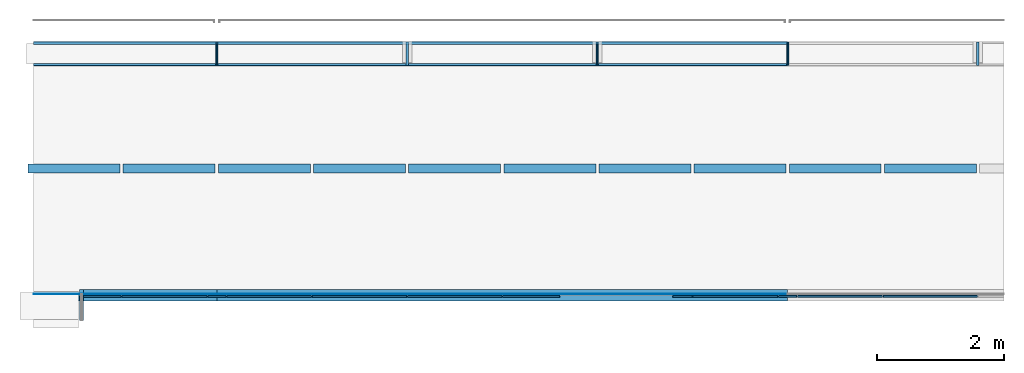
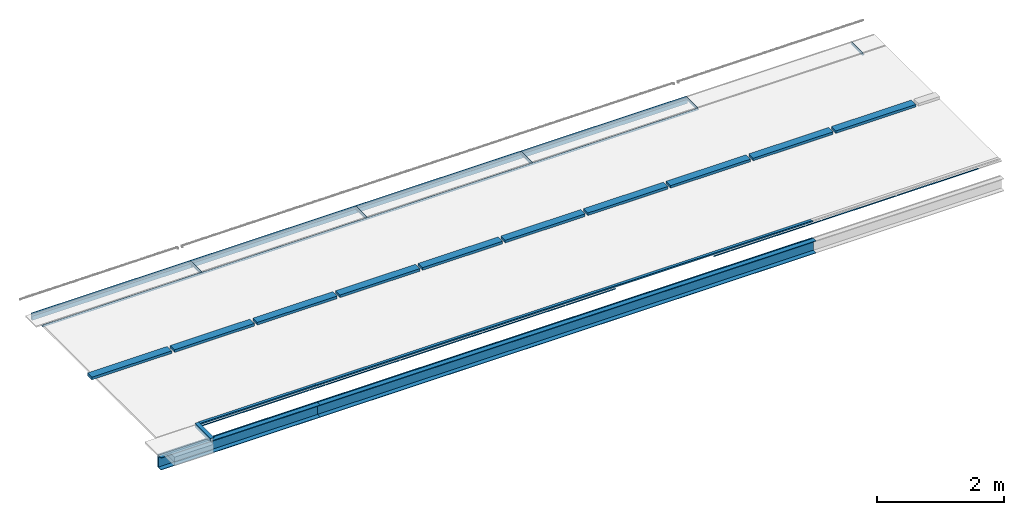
# One storey, part 1 of 3: 30 beams, 10 members, 1 element without a shape of its own.
"""IFC2X3 building model written with IfcOpenShell, lengths in millimetres."""

from ifc_helpers import new_model, entity, si_unit, converted_unit, derived_unit, direction, frame, frame_2d, origin, origin_with_axes, origin_2d_with_axis, place, context, subcontext, project, spatial, polyline, rectangle, outline, extrude, boolean, faceted_brep, source, transform, mapped, material, type_object, element, aggregate, save


model = new_model("IFC2X3")

# Units and contexts
model_context = context("Model", 3, precision=0.01, world=frame((0.0, 4.29681676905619e-09, 0.0)), true_north=direction((4.01073788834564e-13, 1.0)))
plan_context = context("Plan", 3, precision=0.01, world=frame((0.0, 4.29681676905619e-09, 0.0)), true_north=direction((4.01073788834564e-13, 1.0)))
body_context = subcontext(model_context, "Body", "Model", "MODEL_VIEW")
ifc_project = project(units=[converted_unit("PLANEANGLEUNIT", "DEGREE", entity("IfcPositiveLengthMeasure", 0.0174532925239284), si_unit("PLANEANGLEUNIT", "RADIAN"), dimensions=[0, 0, 0, 0, 0, 0, 0]), si_unit("AREAUNIT", "SQUARE_METRE"), si_unit("LENGTHUNIT", "METRE", prefix="MILLI"), si_unit("MASSUNIT", "GRAM", prefix="KILO"), si_unit("POWERUNIT", "WATT"), si_unit("PRESSUREUNIT", "PASCAL"), si_unit("FORCEUNIT", "NEWTON", prefix="KILO"), si_unit("ELECTRICVOLTAGEUNIT", "VOLT"), si_unit("ELECTRICCURRENTUNIT", "AMPERE"), si_unit("THERMODYNAMICTEMPERATUREUNIT", "DEGREE_CELSIUS"), si_unit("TIMEUNIT", "SECOND"), si_unit("VOLUMEUNIT", "CUBIC_METRE"), derived_unit("LINEARVELOCITYUNIT", [(si_unit("LENGTHUNIT", "METRE"), 1), (si_unit("TIMEUNIT", "SECOND"), -1)]), derived_unit("VOLUMETRICFLOWRATEUNIT", [(si_unit("VOLUMEUNIT", "CUBIC_METRE"), 1), (si_unit("TIMEUNIT", "SECOND"), -1)]), derived_unit("THERMALTRANSMITTANCEUNIT", [(si_unit("POWERUNIT", "WATT"), 1), (si_unit("THERMODYNAMICTEMPERATUREUNIT", "KELVIN"), -1), (si_unit("AREAUNIT", "SQUARE_METRE"), -1)]), derived_unit("SOUNDPRESSUREUNIT", [(si_unit("PRESSUREUNIT", "PASCAL"), 1)])], contexts=[model_context, plan_context])

# Site, building, storey
site_placement = place(None, origin_with_axes())
site = spatial("IfcSite", under=ifc_project, at=site_placement, Name="ENGM", CompositionType="ELEMENT")
building_placement = place(site_placement, origin_with_axes())
building = spatial("IfcBuilding", under=site, at=building_placement, Name="TH", CompositionType="ELEMENT")
storey_placement = place(building_placement, frame((0.0, 0.0, 213700.0), z_axis=(0.0, 0.0, 1.0), x_axis=(1.0, 0.0, 0.0)))
storey = spatial("IfcBuildingStorey", under=building, at=storey_placement, Name="Nivå G - 2,0 m", CompositionType="ELEMENT", Elevation=213700.0)

# Curtain wall, members
curtain_wall_type = type_object("IfcCurtainWallType", Name="Curtain Wall:A242 - IGV", PredefinedType="NOTDEFINED")
curtain_wall_placement = place(storey_placement, frame((0.0, 0.0, -213700.0), z_axis=(0.0, 0.0, 1.0), x_axis=(1.0, 0.0, 0.0)))
curtain_wall = element("IfcCurtainWall", 1, at=curtain_wall_placement, inside=storey, type_object=curtain_wall_type, Name="Curtain Wall:A242 - IGV", ObjectType="Curtain Wall:A242 - IGV")
ifc_material_1 = material(Name="T2_Metal_Aluminium")
member_type = type_object("IfcMemberType", Name="Rectangular Mullion:A233 - Sprosse 50 mm - 100(post)+40(dekkprofil)", PredefinedType="MULLION", material=ifc_material_1)
shared_shape = source(origin(), body_context, "Body", "SweptSolid", [
    extrude(rectangle(XDim=139.999999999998, YDim=50.0, at=origin_2d_with_axis()), frame((-25.0, 30.0, -1450.0), z_axis=(0.0, 0.0, 1.0), x_axis=(0.0, -1.0, 0.0)), (0.0, 0.0, 1.0), 1450.00000000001),
])
member_1_placement = place(curtain_wall_placement, frame((905475.045795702, 482793.174999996, 213700.0), z_axis=(1.0, 0.0, 0.0), x_axis=(0.0, 0.0, -1.0)))
member_1 = element("IfcMember", 2, at=member_1_placement, type_object=member_type, material=ifc_material_1, Name="Rectangular Mullion:A233 - Sprosse 50 mm - 100(post)+40(dekkprofil)", ObjectType="Rectangular Mullion:A233 - Sprosse 50 mm - 100(post)+40(dekkprofil)", context=body_context, shape_type="MappedRepresentation", body=[
    mapped(shared_shape, transform((0.0, 0.0, 0.0), scale=1.0)),
])
member_2_placement = place(curtain_wall_placement, frame((908475.045795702, 482793.174999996, 213700.0), z_axis=(1.0, 0.0, 0.0), x_axis=(0.0, 0.0, -1.0)))
member_2 = element("IfcMember", 3, at=member_2_placement, type_object=member_type, material=ifc_material_1, Name="Rectangular Mullion:A233 - Sprosse 50 mm - 100(post)+40(dekkprofil)", ObjectType="Rectangular Mullion:A233 - Sprosse 50 mm - 100(post)+40(dekkprofil)", context=body_context, shape_type="MappedRepresentation", body=[
    mapped(shared_shape, transform((0.0, 0.0, 0.0), scale=1.0)),
])
member_3_placement = place(curtain_wall_placement, frame((902475.045795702, 482793.174999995, 213700.0), z_axis=(1.0, 0.0, 0.0), x_axis=(0.0, 0.0, -1.0)))
member_3 = element("IfcMember", 4, at=member_3_placement, type_object=member_type, material=ifc_material_1, Name="Rectangular Mullion:A233 - Sprosse 50 mm - 100(post)+40(dekkprofil)", ObjectType="Rectangular Mullion:A233 - Sprosse 50 mm - 100(post)+40(dekkprofil)", context=body_context, shape_type="MappedRepresentation", body=[
    mapped(shared_shape, transform((0.0, 0.0, 0.0), scale=1.0)),
])
member_4_placement = place(curtain_wall_placement, frame((899475.045795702, 482793.174999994, 213700.0), z_axis=(1.0, 0.0, 0.0), x_axis=(0.0, 0.0, -1.0)))
member_4 = element("IfcMember", 5, at=member_4_placement, type_object=member_type, material=ifc_material_1, Name="Rectangular Mullion:A233 - Sprosse 50 mm - 100(post)+40(dekkprofil)", ObjectType="Rectangular Mullion:A233 - Sprosse 50 mm - 100(post)+40(dekkprofil)", context=body_context, shape_type="MappedRepresentation", body=[
    mapped(shared_shape, transform((0.0, 0.0, 0.0), scale=1.0)),
])
member_5_placement = place(curtain_wall_placement, frame((896475.045795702, 482793.174999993, 213700.0), z_axis=(1.0, 0.0, 0.0), x_axis=(0.0, 0.0, -1.0)))
member_5 = element("IfcMember", 6, at=member_5_placement, type_object=member_type, material=ifc_material_1, Name="Rectangular Mullion:A233 - Sprosse 50 mm - 100(post)+40(dekkprofil)", ObjectType="Rectangular Mullion:A233 - Sprosse 50 mm - 100(post)+40(dekkprofil)", context=body_context, shape_type="MappedRepresentation", body=[
    mapped(shared_shape, transform((0.0, 0.0, 0.0), scale=1.0)),
])
member_6_placement = place(curtain_wall_placement, frame((897975.045795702, 482793.174999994, 213700.0), z_axis=(1.0, 0.0, 0.0), x_axis=(0.0, 0.0, -1.0)))
member_6 = element("IfcMember", 7, at=member_6_placement, type_object=member_type, material=ifc_material_1, Name="Rectangular Mullion:A233 - Sprosse 50 mm - 100(post)+40(dekkprofil)", ObjectType="Rectangular Mullion:A233 - Sprosse 50 mm - 100(post)+40(dekkprofil)", context=body_context, shape_type="MappedRepresentation", body=[
    mapped(shared_shape, transform((0.0, 0.0, 0.0), scale=1.0)),
])
member_7_placement = place(curtain_wall_placement, frame((900975.045795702, 482793.174999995, 213700.0), z_axis=(1.0, 0.0, 0.0), x_axis=(0.0, 0.0, -1.0)))
member_7 = element("IfcMember", 8, at=member_7_placement, type_object=member_type, material=ifc_material_1, Name="Rectangular Mullion:A233 - Sprosse 50 mm - 100(post)+40(dekkprofil)", ObjectType="Rectangular Mullion:A233 - Sprosse 50 mm - 100(post)+40(dekkprofil)", context=body_context, shape_type="MappedRepresentation", body=[
    mapped(shared_shape, transform((0.0, 0.0, 0.0), scale=1.0)),
])
member_8_placement = place(curtain_wall_placement, frame((903975.045795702, 482793.174999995, 213700.0), z_axis=(1.0, 0.0, 0.0), x_axis=(0.0, 0.0, -1.0)))
member_8 = element("IfcMember", 9, at=member_8_placement, type_object=member_type, material=ifc_material_1, Name="Rectangular Mullion:A233 - Sprosse 50 mm - 100(post)+40(dekkprofil)", ObjectType="Rectangular Mullion:A233 - Sprosse 50 mm - 100(post)+40(dekkprofil)", context=body_context, shape_type="MappedRepresentation", body=[
    mapped(shared_shape, transform((0.0, 0.0, 0.0), scale=1.0)),
])
member_9_placement = place(curtain_wall_placement, frame((906975.045795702, 482793.174999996, 213700.0), z_axis=(1.0, 0.0, 0.0), x_axis=(0.0, 0.0, -1.0)))
member_9 = element("IfcMember", 10, at=member_9_placement, type_object=member_type, material=ifc_material_1, Name="Rectangular Mullion:A233 - Sprosse 50 mm - 100(post)+40(dekkprofil)", ObjectType="Rectangular Mullion:A233 - Sprosse 50 mm - 100(post)+40(dekkprofil)", context=body_context, shape_type="MappedRepresentation", body=[
    mapped(shared_shape, transform((0.0, 0.0, 0.0), scale=1.0)),
])
member_10_placement = place(curtain_wall_placement, frame((909975.045795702, 482793.174999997, 213700.0), z_axis=(1.0, 0.0, 0.0), x_axis=(0.0, 0.0, -1.0)))
member_10 = element("IfcMember", 11, at=member_10_placement, type_object=member_type, material=ifc_material_1, Name="Rectangular Mullion:A233 - Sprosse 50 mm - 100(post)+40(dekkprofil)", ObjectType="Rectangular Mullion:A233 - Sprosse 50 mm - 100(post)+40(dekkprofil)", context=body_context, shape_type="MappedRepresentation", body=[
    mapped(shared_shape, transform((0.0, 0.0, 0.0), scale=1.0)),
])
aggregate(curtain_wall, [member_1, member_2, member_3, member_4, member_5, member_6, member_7, member_8, member_9, member_10])

# Beams
ifc_material_2 = material(Name="_NSW Stål")
beam_type_1 = type_object("IfcBeamType", Name="B223 - Bjelke - Flatstål:B223 - Bjelke - Flatstål - w240 h 8", PredefinedType="BEAM")
beam_1_placement = place(storey_placement, frame((898000.000000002, 480844.004374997, -300.0), z_axis=(0.0, 0.0, 1.0), x_axis=(1.0, 0.0, 0.0)))
element("IfcBeam", 12, at=beam_1_placement, inside=storey, type_object=beam_type_1, material=ifc_material_2, Name="B223 - Bjelke - Flatstål:B223 - Bjelke - Flatstål - w240 h 8", ObjectType="B223 - Bjelke - Flatstål:B223 - Bjelke - Flatstål - w240 h 8", context=body_context, shape_type="SweptSolid", body=[
    extrude(rectangle(XDim=240.000000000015, YDim=7.99999999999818, at=origin_2d_with_axis()), frame((0.0, 0.0, -120.0), z_axis=(1.0, 0.0, 0.0), x_axis=(0.0, 0.0, -1.0)), (0.0, 0.0, 1.0), 9000.00000000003),
])
beam_2_placement = place(storey_placement, frame((889000.000000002, 480844.004374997, -300.0), z_axis=(0.0, 0.0, 1.0), x_axis=(1.0, 0.0, 0.0)))
element("IfcBeam", 13, at=beam_2_placement, inside=storey, type_object=beam_type_1, Name="B223 - Bjelke - Flatstål:B223 - Bjelke - Flatstål - w240 h 8", ObjectType="B223 - Bjelke - Flatstål:B223 - Bjelke - Flatstål - w240 h 8", context=body_context, shape_type="Brep", body=[
    faceted_brep([(6111.90616856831, -3.99999999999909, 7.37543359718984e-12), (6111.90616856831, 3.99999999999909, 7.37543359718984e-12), (9000.00000000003, 3.99999999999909, 7.37543359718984e-12), (9000.00000000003, -3.99999999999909, 7.37543359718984e-12), (6111.90616856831, -3.99999999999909, -240.000000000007), (9000.00000000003, -3.99999999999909, -240.000000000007), (6111.90616856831, 3.99999999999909, -240.000000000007), (9000.00000000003, 3.99999999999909, -240.000000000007)], [[[0, 1, 2, 3]], [[4, 0, 3, 5]], [[6, 4, 5, 7]], [[1, 6, 7, 2]], [[3, 2, 7, 5]], [[4, 6, 1, 0]]], orient=[[False], [False], [False], [False], [False], [False]]),
])
beam_type_2 = type_object("IfcBeamType", Name="B223 - Bjelke - UNP:B223 - UNP 240", PredefinedType="BEAM")
beam_3_placement = place(storey_placement, frame((898000.000000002, 480777.504374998, -300.0), z_axis=(0.0, 0.0, 1.0), x_axis=(1.0, 0.0, 0.0)))
element("IfcBeam", 14, at=beam_3_placement, inside=storey, type_object=beam_type_2, material=ifc_material_2, Name="B223 - Bjelke - UNP:B223 - UNP 240", ObjectType="B223 - Bjelke - UNP:B223 - UNP 240", context=body_context, shape_type="SweptSolid", body=[
    extrude(outline(polyline([(109.673873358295, -40.1250000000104), (120.0, -40.1250000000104), (120.0, 44.8750000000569), (-120.0, 44.8749999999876), (-120.0, -40.1250000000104), (-109.673873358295, -40.1250000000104), (-104.923815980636, 35.3750000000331), (104.923815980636, 35.3750000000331), (109.673873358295, -40.1250000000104)])), frame((0.0, -2.37500000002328, -120.0), z_axis=(1.0, 0.0, 0.0), x_axis=(0.0, 0.0, -1.0)), (0.0, 0.0, 1.0), 9000.00000000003),
])
beam_4_placement = place(storey_placement, frame((889000.000000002, 480777.504374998, -300.0), z_axis=(0.0, 0.0, 1.0), x_axis=(1.0, 0.0, 0.0)))
element("IfcBeam", 15, at=beam_4_placement, inside=storey, type_object=beam_type_2, Name="B223 - Bjelke - UNP:B223 - UNP 240", ObjectType="B223 - Bjelke - UNP:B223 - UNP 240", context=body_context, shape_type="Brep", body=[
    faceted_brep([(6111.90616856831, -42.4999999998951, -229.673873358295), (6111.90616856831, 33.0000000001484, -224.923815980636), (9000.00000000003, 33.0000000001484, -224.923815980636), (9000.00000000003, -42.4999999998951, -229.673873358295), (6111.90616856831, -42.4999999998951, -240.0), (9000.00000000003, -42.4999999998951, -240.0), (6111.90616856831, 42.5000000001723, -240.0), (9000.00000000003, 42.5000000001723, -240.0), (6111.90616856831, 42.500000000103, 0.0), (9000.00000000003, 42.500000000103, 0.0), (6111.90616856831, -42.4999999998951, 0.0), (9000.00000000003, -42.4999999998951, 0.0), (6111.90616856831, -42.4999999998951, -10.3261266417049), (9000.00000000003, -42.4999999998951, -10.3261266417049), (6111.90616856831, 33.0000000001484, -15.0761840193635), (9000.00000000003, 33.0000000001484, -15.0761840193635)], [[[0, 1, 2, 3]], [[4, 0, 3, 5]], [[6, 4, 5, 7]], [[8, 6, 7, 9]], [[10, 8, 9, 11]], [[12, 10, 11, 13]], [[14, 12, 13, 15]], [[1, 14, 15, 2]], [[3, 2, 15, 13, 11, 9, 7, 5]], [[4, 6, 8, 10, 12, 14, 1, 0]]], orient=[[False], [False], [False], [False], [False], [False], [False], [False], [False], [False]]),
])
beam_type_3 = type_object("IfcBeamType", Name="B223 - Bjelke - L:B223 -80x25x4", PredefinedType="BEAM")
beam_5_placement = place(storey_placement, frame((898000.000000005, 480835.999999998, 0.0), z_axis=(0.0, 0.0, 1.0), x_axis=(1.0, 0.0, 0.0)))
element("IfcBeam", 16, at=beam_5_placement, inside=storey, type_object=beam_type_3, material=ifc_material_2, Name="B223 - Bjelke - L:B223 -80x25x4", ObjectType="B223 - Bjelke - L:B223 -80x25x4", context=body_context, shape_type="SweptSolid", body=[
    extrude(outline(polyline([(-15.3333333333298, -28.0), (9.6666666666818, -28.0), (9.6666666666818, 52.0), (5.6666666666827, 52.0), (5.6666666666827, -24.0), (-15.3333333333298, -24.0), (-15.3333333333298, -28.0)])), frame((0.0, 28.0, 9.6666666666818), z_axis=(1.0, 0.0, 0.0), x_axis=(0.0, 0.0, -1.0)), (0.0, 0.0, 1.0), 9001.022094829),
])
beam_type_4 = type_object("IfcBeamType", Name="B223 - Bjelke - L:B223 - 25x25x5", PredefinedType="BEAM")
beam_6_placement = place(storey_placement, frame((899507.500000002, 480820.004374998, 0.0), z_axis=(0.0, 0.0, 1.0), x_axis=(1.0, 0.0, 0.0)))
element("IfcBeam", 17, at=beam_6_placement, inside=storey, type_object=beam_type_4, material=ifc_material_2, Name="B223 - Bjelke - L:B223 - 25x25x5", ObjectType="B223 - Bjelke - L:B223 - 25x25x5", context=body_context, shape_type="SweptSolid", body=[
    extrude(outline(polyline([(-10.0, -15.0), (-5.0, -15.0), (-5.0, 5.0), (15.0, 5.0), (15.0, 10.0), (-10.0, 10.0), (-10.0, -15.0)])), frame((0.0, -10.0, -10.0), z_axis=(1.0, 0.0, 0.0), x_axis=(0.0, 0.0, -1.0)), (0.0, 0.0, 1.0), 1485.00000000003),
])
beam_7_placement = place(storey_placement, frame((898157.499999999, 480820.004375, 0.0), z_axis=(0.0, 0.0, 1.0), x_axis=(1.0, 0.0, 0.0)))
element("IfcBeam", 18, at=beam_7_placement, inside=storey, type_object=beam_type_4, material=ifc_material_2, Name="B223 - Bjelke - L:B223 - 25x25x5", ObjectType="B223 - Bjelke - L:B223 - 25x25x5", context=body_context, shape_type="SweptSolid", body=[
    extrude(outline(polyline([(-10.0, -15.0), (-5.0, -15.0), (-5.0, 5.0), (15.0, 5.0), (15.0, 10.0), (-10.0, 10.0), (-10.0, -15.0)])), frame((0.0, -10.0, -10.0), z_axis=(1.0, 0.0, 0.0), x_axis=(0.0, 0.0, -1.0)), (0.0, 0.0, 1.0), 1334.99999999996),
])
beam_8_placement = place(storey_placement, frame((901007.500000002, 480820.004374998, 0.0), z_axis=(0.0, 0.0, 1.0), x_axis=(1.0, 0.0, 0.0)))
element("IfcBeam", 19, at=beam_8_placement, inside=storey, type_object=beam_type_4, material=ifc_material_2, Name="B223 - Bjelke - L:B223 - 25x25x5", ObjectType="B223 - Bjelke - L:B223 - 25x25x5", context=body_context, shape_type="SweptSolid", body=[
    extrude(outline(polyline([(-10.0, -15.0), (-5.0, -15.0), (-5.0, 5.0), (15.0, 5.0), (15.0, 10.0), (-10.0, 10.0), (-10.0, -15.0)])), frame((0.0, -10.0, -10.0), z_axis=(1.0, 0.0, 0.0), x_axis=(0.0, 0.0, -1.0)), (0.0, 0.0, 1.0), 1485.00000000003),
])
beam_9_placement = place(storey_placement, frame((902507.500000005, 480820.004374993, 0.0), z_axis=(0.0, 0.0, 1.0), x_axis=(1.0, 0.0, 0.0)))
element("IfcBeam", 20, at=beam_9_placement, inside=storey, type_object=beam_type_4, material=ifc_material_2, Name="B223 - Bjelke - L:B223 - 25x25x5", ObjectType="B223 - Bjelke - L:B223 - 25x25x5", context=body_context, shape_type="SweptSolid", body=[
    extrude(outline(polyline([(-10.0, -15.0), (-5.0, -15.0), (-5.0, 5.0), (15.0, 5.0), (15.0, 10.0), (-10.0, 10.0), (-10.0, -15.0)])), frame((0.0, -10.0, -10.0), z_axis=(1.0, 0.0, 0.0), x_axis=(0.0, 0.0, -1.0)), (0.0, 0.0, 1.0), 897.094607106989),
])
beam_10_placement = place(storey_placement, frame((905189.594607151, 480820.004374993, 0.0), z_axis=(0.0, 0.0, 1.0), x_axis=(1.0, 0.0, 0.0)))
element("IfcBeam", 21, at=beam_10_placement, inside=storey, type_object=beam_type_4, material=ifc_material_2, Name="B223 - Bjelke - L:B223 - 25x25x5", ObjectType="B223 - Bjelke - L:B223 - 25x25x5", context=body_context, shape_type="SweptSolid", body=[
    extrude(outline(polyline([(-10.0, -15.0), (-5.0, -15.0), (-5.0, 5.0), (15.0, 5.0), (15.0, 10.0), (-10.0, 10.0), (-10.0, -15.0)])), frame((0.0, -10.0, -10.0), z_axis=(1.0, 0.0, 0.0), x_axis=(0.0, 0.0, -1.0)), (0.0, 0.0, 1.0), 302.90539285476),
])
beam_11_placement = place(storey_placement, frame((905507.499999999, 480820.004375, 0.0), z_axis=(0.0, 0.0, 1.0), x_axis=(1.0, 0.0, 0.0)))
element("IfcBeam", 22, at=beam_11_placement, inside=storey, type_object=beam_type_4, material=ifc_material_2, Name="B223 - Bjelke - L:B223 - 25x25x5", ObjectType="B223 - Bjelke - L:B223 - 25x25x5", context=body_context, shape_type="SweptSolid", body=[
    extrude(outline(polyline([(-10.0, -15.0), (-5.0, -15.0), (-5.0, 5.0), (15.0, 5.0), (15.0, 10.0), (-10.0, 10.0), (-10.0, -15.0)])), frame((0.0, -10.0, -10.0), z_axis=(1.0, 0.0, 0.0), x_axis=(0.0, 0.0, -1.0)), (0.0, 0.0, 1.0), 1334.99999999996),
])
beam_12_placement = place(storey_placement, frame((906857.499999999, 480820.004375, 0.0), z_axis=(0.0, 0.0, 1.0), x_axis=(1.0, 0.0, 0.0)))
element("IfcBeam", 23, at=beam_12_placement, inside=storey, type_object=beam_type_4, material=ifc_material_2, Name="B223 - Bjelke - L:B223 - 25x25x5", ObjectType="B223 - Bjelke - L:B223 - 25x25x5", context=body_context, shape_type="SweptSolid", body=[
    extrude(outline(polyline([(-10.0, -15.0), (-5.0, -15.0), (-5.0, 5.0), (15.0, 5.0), (15.0, 10.0), (-10.0, 10.0), (-10.0, -15.0)])), frame((0.0, -10.0, -10.0), z_axis=(1.0, 0.0, 0.0), x_axis=(0.0, 0.0, -1.0)), (0.0, 0.0, 1.0), 285.000000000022),
])
beam_13_placement = place(storey_placement, frame((908507.500000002, 480820.004374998, 0.0), z_axis=(0.0, 0.0, 1.0), x_axis=(1.0, 0.0, 0.0)))
element("IfcBeam", 24, at=beam_13_placement, inside=storey, type_object=beam_type_4, material=ifc_material_2, Name="B223 - Bjelke - L:B223 - 25x25x5", ObjectType="B223 - Bjelke - L:B223 - 25x25x5", context=body_context, shape_type="SweptSolid", body=[
    extrude(outline(polyline([(-10.0, -15.0), (-5.0, -15.0), (-5.0, 5.0), (15.0, 5.0), (15.0, 10.0), (-10.0, 10.0), (-10.0, -15.0)])), frame((0.0, -10.0, -10.0), z_axis=(1.0, 0.0, 0.0), x_axis=(0.0, 0.0, -1.0)), (0.0, 0.0, 1.0), 1485.00000000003),
])
beam_14_placement = place(storey_placement, frame((907157.499999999, 480820.004375, 0.0), z_axis=(0.0, 0.0, 1.0), x_axis=(1.0, 0.0, 0.0)))
element("IfcBeam", 25, at=beam_14_placement, inside=storey, type_object=beam_type_4, material=ifc_material_2, Name="B223 - Bjelke - L:B223 - 25x25x5", ObjectType="B223 - Bjelke - L:B223 - 25x25x5", context=body_context, shape_type="SweptSolid", body=[
    extrude(outline(polyline([(-10.0, -15.0), (-5.0, -15.0), (-5.0, 5.0), (15.0, 5.0), (15.0, 10.0), (-10.0, 10.0), (-10.0, -15.0)])), frame((0.0, -10.0, -10.0), z_axis=(1.0, 0.0, 0.0), x_axis=(0.0, 0.0, -1.0)), (0.0, 0.0, 1.0), 1334.99999999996),
])
beam_type_5 = type_object("IfcBeamType", Name="B223 - Bjelke - L:B223 - 40x40x4", PredefinedType="BEAM")
beam_15_placement = place(storey_placement, frame((898000.000000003, 484799.999999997, -40.0), z_axis=(0.0, 0.0, 1.0), x_axis=(1.0, 0.0, 0.0)))
element("IfcBeam", 26, at=beam_15_placement, inside=storey, type_object=beam_type_5, material=ifc_material_2, Name="B223 - Bjelke - L:B223 - 40x40x4", ObjectType="B223 - Bjelke - L:B223 - 40x40x4", context=body_context, shape_type="SweptSolid", body=[
    extrude(outline(polyline([(10.6666666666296, -25.3333333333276), (14.6666666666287, -25.3333333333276), (14.6666666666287, 14.6666666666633), (-25.3333333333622, 14.6666666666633), (-25.3333333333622, 10.6666666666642), (10.6666666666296, 10.6666666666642), (10.6666666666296, -25.3333333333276)])), frame((0.0, 5.33333333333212, 14.6666666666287), z_axis=(1.0, 0.0, 0.0), x_axis=(0.0, 0.0, -1.0)), (0.0, 0.0, 1.0), 9000.00000000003),
])
beam_16_placement = place(storey_placement, frame((898000.000000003, 484459.999999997, -40.0), z_axis=(0.0, 0.0, 1.0), x_axis=(1.0, 0.0, 0.0)))
element("IfcBeam", 27, at=beam_16_placement, inside=storey, type_object=beam_type_5, material=ifc_material_2, Name="B223 - Bjelke - L:B223 - 40x40x4", ObjectType="B223 - Bjelke - L:B223 - 40x40x4", context=body_context, shape_type="SweptSolid", body=[
    extrude(outline(polyline([(-25.3333333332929, -14.6666666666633), (14.666666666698, -14.6666666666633), (14.666666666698, 25.3333333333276), (10.6666666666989, 25.3333333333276), (10.6666666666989, -10.6666666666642), (-25.3333333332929, -10.6666666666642), (-25.3333333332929, -14.6666666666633)])), frame((0.0, -5.33333333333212, 14.666666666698), z_axis=(1.0, 0.0, 0.0), x_axis=(0.0, 0.0, -1.0)), (0.0, 0.0, 1.0), 9000.00000000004),
])
beam_17_placement = place(storey_placement, frame((889000.000000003, 484799.999999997, -40.0), z_axis=(0.0, 0.0, 1.0), x_axis=(1.0, 0.0, 0.0)))
element("IfcBeam", 28, at=beam_17_placement, inside=storey, type_object=beam_type_5, Name="B223 - Bjelke - L:B223 - 40x40x4", ObjectType="B223 - Bjelke - L:B223 - 40x40x4", context=body_context, shape_type="Brep", body=[
    faceted_brep([(6111.90616856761, -19.9999999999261, 3.99999999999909), (6111.90616856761, 16.0000000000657, 3.99999999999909), (9000.00000000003, 16.0000000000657, 3.99999999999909), (9000.00000000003, -19.9999999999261, 3.99999999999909), (6111.90616856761, -19.9999999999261, 0.0), (9000.00000000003, -19.9999999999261, 0.0), (6111.90616856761, 20.0000000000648, 0.0), (9000.00000000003, 20.0000000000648, 0.0), (6111.90616856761, 20.0000000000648, 39.9999999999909), (9000.00000000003, 20.0000000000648, 39.9999999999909), (6111.90616856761, 16.0000000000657, 39.9999999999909), (9000.00000000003, 16.0000000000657, 39.9999999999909)], [[[0, 1, 2, 3]], [[4, 0, 3, 5]], [[6, 4, 5, 7]], [[8, 6, 7, 9]], [[10, 8, 9, 11]], [[1, 10, 11, 2]], [[3, 2, 11, 9, 7, 5]], [[4, 6, 8, 10, 1, 0]]], orient=[[False], [False], [False], [False], [False], [False], [False], [False]]),
])
beam_18_placement = place(storey_placement, frame((889000.000000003, 484459.999999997, -40.0), z_axis=(0.0, 0.0, 1.0), x_axis=(1.0, 0.0, 0.0)))
element("IfcBeam", 29, at=beam_18_placement, inside=storey, type_object=beam_type_5, Name="B223 - Bjelke - L:B223 - 40x40x4", ObjectType="B223 - Bjelke - L:B223 - 40x40x4", context=body_context, shape_type="Brep", body=[
    faceted_brep([(6111.90616856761, -19.9999999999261, 39.9999999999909), (6111.90616856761, -15.9999999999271, 39.9999999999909), (9000.00000000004, -15.9999999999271, 39.9999999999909), (9000.00000000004, -19.9999999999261, 39.9999999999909), (6111.90616856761, -19.9999999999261, 0.0), (9000.00000000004, -19.9999999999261, 0.0), (6111.90616856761, 20.0000000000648, 0.0), (9000.00000000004, 20.0000000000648, 0.0), (6111.90616856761, 20.0000000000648, 3.99999999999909), (9000.00000000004, 20.0000000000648, 3.99999999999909), (6111.90616856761, -15.9999999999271, 3.99999999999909), (9000.00000000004, -15.9999999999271, 3.99999999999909)], [[[0, 1, 2, 3]], [[4, 0, 3, 5]], [[6, 4, 5, 7]], [[8, 6, 7, 9]], [[10, 8, 9, 11]], [[1, 10, 11, 2]], [[3, 2, 11, 9, 7, 5]], [[4, 6, 8, 10, 1, 0]]], orient=[[False], [False], [False], [False], [False], [False], [False], [False]]),
])
beam_type_6 = type_object("IfcBeamType", Name="B223 - Bjelke - HUP:B223 - HUP 40x80x4mm", PredefinedType="BEAM")
beam_19_placement = place(storey_placement, frame((898000.000000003, 484799.999999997, -120.0), z_axis=(0.0, 0.0, 1.0), x_axis=(1.0, 0.0, 0.0)))
element("IfcBeam", 30, at=beam_19_placement, inside=storey, type_object=beam_type_6, material=ifc_material_2, Name="B223 - Bjelke - HUP:B223 - HUP 40x80x4mm", ObjectType="B223 - Bjelke - HUP:B223 - HUP 40x80x4mm", context=body_context, shape_type="SweptSolid", body=[
    boolean("DIFFERENCE", extrude(rectangle(XDim=79.9999999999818, YDim=39.9999999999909, at=origin_2d_with_axis()), frame((0.0, 0.0, 40.0), z_axis=(1.0, 0.0, 0.0), x_axis=(0.0, 0.0, -1.0)), (0.0, 0.0, 1.0), 9000.00000000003), extrude(rectangle(XDim=71.9999999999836, YDim=31.9999999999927, at=frame_2d((0.0, 0.0), x_axis=(0.0, 1.0))), frame((0.0, 0.0, 40.0), z_axis=(1.0, 0.0, 0.0), x_axis=(0.0, -1.0, 0.0)), (0.0, 0.0, 1.0), 9000.00000000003)),
])
beam_20_placement = place(storey_placement, frame((889000.000000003, 484799.999999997, -120.0), z_axis=(0.0, 0.0, 1.0), x_axis=(1.0, 0.0, 0.0)))
element("IfcBeam", 31, at=beam_20_placement, inside=storey, type_object=beam_type_6, Name="B223 - Bjelke - HUP:B223 - HUP 40x80x4mm", ObjectType="B223 - Bjelke - HUP:B223 - HUP 40x80x4mm", context=body_context, shape_type="Brep", body=[
    faceted_brep([(6111.90616856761, -19.9999999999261, 79.9999999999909), (6111.90616856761, 20.0000000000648, 79.9999999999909), (9000.00000000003, 20.0000000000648, 79.9999999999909), (9000.00000000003, -19.9999999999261, 79.9999999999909), (6111.90616856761, -19.9999999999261, 9.09494701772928e-12), (9000.00000000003, -19.9999999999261, 9.09494701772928e-12), (6111.90616856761, 20.0000000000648, 9.09494701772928e-12), (9000.00000000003, 20.0000000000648, 9.09494701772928e-12), (9000.00000000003, -15.9999999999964, 4.00000000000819), (9000.00000000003, 15.9999999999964, 4.00000000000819), (9000.00000000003, 15.9999999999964, 75.9999999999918), (9000.00000000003, -15.9999999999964, 75.9999999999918), (6111.90616856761, 15.9999999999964, 75.9999999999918), (6111.90616856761, -15.9999999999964, 75.9999999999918), (6111.90616856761, -15.9999999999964, 4.00000000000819), (6111.90616856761, 15.9999999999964, 4.00000000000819)], [[[0, 1, 2, 3]], [[4, 0, 3, 5]], [[6, 4, 5, 7]], [[1, 6, 7, 2]], [[3, 2, 7, 5], [8, 9, 10, 11]], [[12, 13, 11, 10]], [[13, 14, 8, 11]], [[14, 15, 9, 8]], [[15, 12, 10, 9]], [[4, 6, 1, 0], [15, 14, 13, 12]]], orient=[[False], [False], [False], [False], [False, False], [False], [False], [False], [False], [False, False]]),
])
beam_type_7 = type_object("IfcBeamType", Name="B223 - Bjelke - T:B223 - T-profil - 40 x 40 x 10 mm", PredefinedType="BEAM")
beam_21_placement = place(storey_placement, frame((904000.000000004, 484815.999999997, -40.0), z_axis=(0.0, 0.0, 1.0), x_axis=(0.0, -1.0, 0.0)))
element("IfcBeam", 32, at=beam_21_placement, inside=storey, type_object=beam_type_7, material=ifc_material_2, Name="B223 - Bjelke - T:B223 - T-profil - 40 x 40 x 10 mm", ObjectType="B223 - Bjelke - T:B223 - T-profil - 40 x 40 x 10 mm", context=body_context, shape_type="SweptSolid", body=[
    extrude(outline(polyline([(7.49999999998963, -20.0), (12.5000000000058, -20.0), (12.5000000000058, 20.0), (7.50000000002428, 20.0), (7.50000000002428, 2.50000000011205), (-27.4999999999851, 2.50000000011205), (-27.4999999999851, -2.49999999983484), (7.50000000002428, -2.49999999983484), (7.49999999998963, -20.0)])), frame((0.0, 0.0, 12.5000000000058), z_axis=(1.0, 0.0, 0.0), x_axis=(0.0, 0.0, -1.0)), (0.0, 0.0, 1.0), 372.000000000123),
])
for number, where, z_axis, x_axis in (
    (33, (901000.000000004, 484815.999999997, -40.0), (0.0, 0.0, 1.0), (0.0, -1.0, 0.0)),
    (34, (898000.000000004, 484815.999999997, -40.0), (0.0, 0.0, 1.0), (0.0, -1.0, 0.0)),
    (35, (910000.000000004, 484815.999999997, -40.0), (0.0, 0.0, 1.0), (0.0, -1.0, 0.0)),
):
    element("IfcBeam", number, at=place(storey_placement, frame(where, z_axis=z_axis, x_axis=x_axis)), inside=storey, type_object=beam_type_7, material=ifc_material_2, Name="B223 - Bjelke - T:B223 - T-profil - 40 x 40 x 10 mm", ObjectType="B223 - Bjelke - T:B223 - T-profil - 40 x 40 x 10 mm", context=body_context, shape_type="SweptSolid", body=[
        extrude(outline(polyline([(7.49999999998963, -20.0), (12.5000000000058, -20.0), (12.5000000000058, 20.0), (7.50000000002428, 20.0), (7.50000000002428, 2.49999999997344), (-27.4999999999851, 2.49999999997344), (-27.4999999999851, -2.49999999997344), (7.50000000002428, -2.49999999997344), (7.49999999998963, -20.0)])), frame((0.0, 0.0, 12.5000000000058), z_axis=(1.0, 0.0, 0.0), x_axis=(0.0, 0.0, -1.0)), (0.0, 0.0, 1.0), 372.000000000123),
    ])
beam_22_placement = place(storey_placement, frame((907000.000000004, 484815.999999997, -40.0), z_axis=(0.0, 0.0, 1.0), x_axis=(0.0, -1.0, 0.0)))
element("IfcBeam", 36, at=beam_22_placement, inside=storey, type_object=beam_type_7, material=ifc_material_2, Name="B223 - Bjelke - T:B223 - T-profil - 40 x 40 x 10 mm", ObjectType="B223 - Bjelke - T:B223 - T-profil - 40 x 40 x 10 mm", context=body_context, shape_type="SweptSolid", body=[
    extrude(outline(polyline([(7.49999999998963, -20.0), (12.5000000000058, -20.0), (12.5000000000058, 20.0), (7.50000000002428, 20.0), (7.50000000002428, 2.50000000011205), (-27.4999999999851, 2.50000000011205), (-27.4999999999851, -2.49999999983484), (7.50000000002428, -2.49999999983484), (7.49999999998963, -20.0)])), frame((0.0, 0.0, 12.5000000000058), z_axis=(1.0, 0.0, 0.0), x_axis=(0.0, 0.0, -1.0)), (0.0, 0.0, 1.0), 372.000000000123),
])
beam_type_8 = type_object("IfcBeamType", Name="B223 - Bjelke - L2:B223 - L-profil - 25 x 25 x 5 mm", PredefinedType="BEAM")
beam_23_placement = place(storey_placement, frame((896507.500000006, 480820.004374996, 0.0), z_axis=(0.0, 0.0, 1.0), x_axis=(1.0, 0.0, 0.0)))
element("IfcBeam", 37, at=beam_23_placement, inside=storey, type_object=beam_type_8, material=ifc_material_2, Name="B223 - Bjelke - L2:B223 - L-profil - 25 x 25 x 5 mm", ObjectType="B223 - Bjelke - L2:B223 - L-profil - 25 x 25 x 5 mm", context=body_context, shape_type="SweptSolid", body=[
    extrude(outline(polyline([(-10.0, -15.0), (-5.0, -15.0), (-5.0, 5.0), (15.0, 5.0), (15.0, 10.0), (-10.0, 10.0), (-10.0, -15.0)])), frame((0.0, -10.0, -10.0), z_axis=(1.0, 0.0, 0.0), x_axis=(0.0, 0.0, -1.0)), (0.0, 0.0, 1.0), 1334.99999999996),
])
beam_24_placement = place(storey_placement, frame((896492.500000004, 480820.004374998, 0.0), z_axis=(0.0, 0.0, 1.0), x_axis=(-1.0, 0.0, 0.0)))
element("IfcBeam", 38, at=beam_24_placement, inside=storey, type_object=beam_type_8, material=ifc_material_2, Name="B223 - Bjelke - L2:B223 - L-profil - 25 x 25 x 5 mm", ObjectType="B223 - Bjelke - L2:B223 - L-profil - 25 x 25 x 5 mm", context=body_context, shape_type="SweptSolid", body=[
    extrude(outline(polyline([(-10.0, -10.0), (15.0, -10.0), (15.0, -5.0), (-5.0, -5.0), (-5.0, 15.0), (-10.0, 15.0), (-10.0, -10.0)])), frame((0.0, 10.0, -10.0), z_axis=(1.0, 0.0, 0.0), x_axis=(0.0, 0.0, -1.0)), (0.0, 0.0, 1.0), 590.154648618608),
])
beam_25_placement = place(storey_placement, frame((897857.500000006, 480820.004374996, 0.0), z_axis=(0.0, 0.0, 1.0), x_axis=(1.0, 0.0, 0.0)))
element("IfcBeam", 39, at=beam_25_placement, inside=storey, type_object=beam_type_8, material=ifc_material_2, Name="B223 - Bjelke - L2:B223 - L-profil - 25 x 25 x 5 mm", ObjectType="B223 - Bjelke - L2:B223 - L-profil - 25 x 25 x 5 mm", context=body_context, shape_type="SweptSolid", body=[
    extrude(outline(polyline([(-10.0, -15.0), (-5.0, -15.0), (-5.0, 5.0), (15.0, 5.0), (15.0, 10.0), (-10.0, 10.0), (-10.0, -15.0)])), frame((0.0, -10.0, -10.0), z_axis=(1.0, 0.0, 0.0), x_axis=(0.0, 0.0, -1.0)), (0.0, 0.0, 1.0), 285.000000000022),
])
beam_type_9 = type_object("IfcBeamType", Name="B223 - Bjelke - L2:B223 - L-profil - 80 x 25 x  4 mm", PredefinedType="BEAM")
beam_26_placement = place(storey_placement, frame((895902.269176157, 480836.000000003, 0.0), z_axis=(0.0, 0.0, 1.0), x_axis=(1.0, 0.0, 0.0)))
element("IfcBeam", 40, at=beam_26_placement, inside=storey, type_object=beam_type_9, material=ifc_material_2, Name="B223 - Bjelke - L2:B223 - L-profil - 80 x 25 x  4 mm", ObjectType="B223 - Bjelke - L2:B223 - L-profil - 80 x 25 x  4 mm", context=body_context, shape_type="SweptSolid", body=[
    extrude(outline(polyline([(-15.3333333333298, -28.0), (9.6666666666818, -28.0), (9.6666666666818, 52.0), (5.6666666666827, 52.0), (5.6666666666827, -24.0), (-15.3333333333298, -24.0), (-15.3333333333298, -28.0)])), frame((0.0, 28.0, 9.6666666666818), z_axis=(1.0, 0.0, 0.0), x_axis=(0.0, 0.0, -1.0)), (0.0, 0.0, 1.0), 2097.73082384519),
])
beam_type_10 = type_object("IfcBeamType", Name="B223 - Bjelke - L2:B223 - L-profil - 70 x 70 x 7 mm", PredefinedType="BEAM")
beam_27_placement = place(storey_placement, frame((895832.000000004, 480916.000000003, 0.0), z_axis=(0.0, 0.0, 1.0), x_axis=(0.0, -1.0, 0.0)))
element("IfcBeam", 41, at=beam_27_placement, inside=storey, type_object=beam_type_10, material=ifc_material_2, Name="B223 - Bjelke - L2:B223 - L-profil - 70 x 70 x 7 mm", ObjectType="B223 - Bjelke - L2:B223 - L-profil - 70 x 70 x 7 mm", context=body_context, shape_type="SweptSolid", body=[
    extrude(outline(polyline([(-25.6666666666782, -25.6666666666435), (44.3333333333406, -25.6666666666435), (44.3333333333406, -18.6666666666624), (-18.6666666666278, -18.6666666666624), (-18.6666666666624, 44.3333333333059), (-25.6666666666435, 44.3333333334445), (-25.6666666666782, -25.6666666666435)])), frame((0.0, 25.6666666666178, -25.6666666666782), z_axis=(1.0, 0.0, 0.0), x_axis=(0.0, 0.0, -1.0)), (0.0, 0.0, 1.0), 488.490969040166),
])

save(model, "model.ifc")
